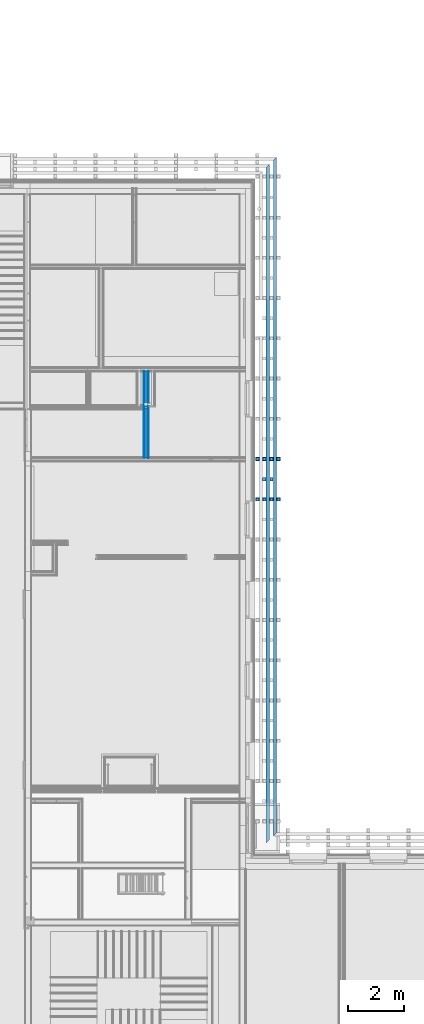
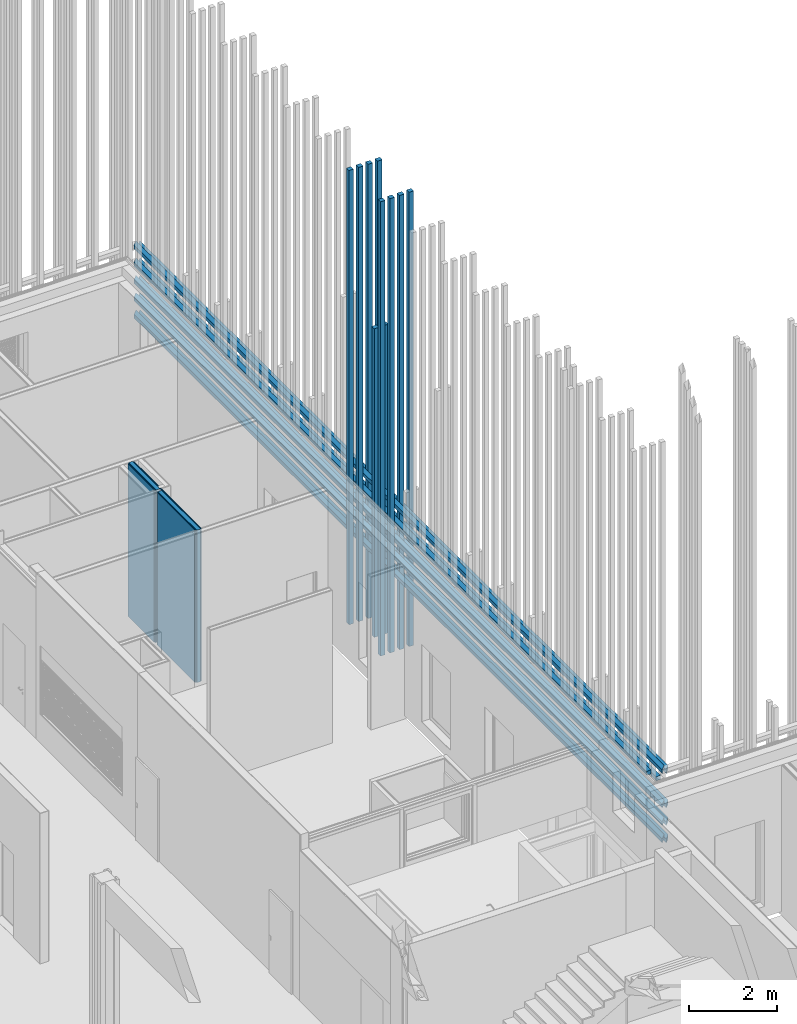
# One storey, part 191 of 260: 8 discrete accessories, 7 building element parts, 1 element without a shape of its own.
"""IFC2X3 building model written with IfcOpenShell, lengths in millimetres."""

from ifc_helpers import new_model, entity, si_unit, converted_unit, derived_unit, money_unit, direction, frame, origin_with_axes, place, context, subcontext, project, spatial, faceted_brep, material, material_list, type_object, element, aggregate, save


model = new_model("IFC2X3")

# Units and contexts
model_context = context("Model", 3, precision=0.01, world=origin_with_axes(), true_north=direction((0.0, 1.0)))
body_context = subcontext(model_context, "Body", "Model", "MODEL_VIEW")
ifc_project = project(units=[si_unit("LENGTHUNIT", "METRE", prefix="MILLI"), si_unit("AREAUNIT", "SQUARE_METRE"), si_unit("VOLUMEUNIT", "CUBIC_METRE"), converted_unit("PLANEANGLEUNIT", "DEGREE", entity("IfcPlaneAngleMeasure", 0.0174532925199), si_unit("PLANEANGLEUNIT", "RADIAN"), dimensions=[0, 0, 0, 0, 0, 0, 0]), money_unit("EUR"), converted_unit("TIMEUNIT", "Year", entity("IfcTimeMeasure", 31556926.0), si_unit("TIMEUNIT", "SECOND"), dimensions=[0, 0, 1, 0, 0, 0, 0]), si_unit("MASSUNIT", "GRAM", prefix="KILO"), si_unit("THERMODYNAMICTEMPERATUREUNIT", "DEGREE_CELSIUS"), si_unit("LUMINOUSINTENSITYUNIT", "LUMEN"), si_unit("ENERGYUNIT", "JOULE", prefix="MEGA"), derived_unit("THERMALCONDUCTANCEUNIT", [(si_unit("POWERUNIT", "WATT"), 1), (si_unit("LENGTHUNIT", "METRE"), -1), (si_unit("THERMODYNAMICTEMPERATUREUNIT", "KELVIN"), -1)]), derived_unit("SPECIFICHEATCAPACITYUNIT", [(si_unit("ENERGYUNIT", "JOULE"), 1), (si_unit("MASSUNIT", "GRAM", prefix="KILO"), -1), (si_unit("THERMODYNAMICTEMPERATUREUNIT", "KELVIN"), -1)]), derived_unit("MASSDENSITYUNIT", [(si_unit("MASSUNIT", "GRAM", prefix="KILO"), 1), (si_unit("VOLUMEUNIT", "CUBIC_METRE"), -1)])], contexts=[model_context])

# Site, building, storey
site_placement = place(None, origin_with_axes())
site = spatial("IfcSite", under=ifc_project, at=site_placement, Name="Kolde pst 67a", CompositionType="ELEMENT")
building_placement = place(site_placement, origin_with_axes())
building = spatial("IfcBuilding", under=site, at=building_placement, Name="Riigigümnaasium", CompositionType="ELEMENT")
storey_placement = place(building_placement, origin_with_axes())
storey = spatial("IfcBuildingStorey", under=building, at=storey_placement, Name="1. korrus", CompositionType="ELEMENT", Elevation=0.0)

# Discrete accessories
ifc_material_1 = material(Name="_VÄLISVIIMISTLUS - sõrmjätkatud puitprussid 120x115mm, liitekohad vähemärgatavad, Platowood sõrmjätkatud kuusk või samaväärne; eeltöödeldud tuletõkkevõõbaga, tuletundlikkus B-s1, d0, Woodsafe Exterior WFX™ või samaväärne; kinnitused vastavalt EK osale")
ifc_material_list_1 = material_list([ifc_material_1, ifc_material_1, ifc_material_1, ifc_material_1])
discrete_accessory_type_1 = type_object("IfcDiscreteAccessoryType", Name="120 4-ne vertikaalne 870 x 115")
for number, where, z_axis, x_axis in (
    (1, (60791.9943499, 50807.4998416, 280.0), (0.0, 0.0, 1.0), (-0.999999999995, -3.13999128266e-06, 0.0)),
    (2, (60791.9943499, 49377.4998416, 280.0), (0.0, 0.0, 1.0), (-0.999999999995, -3.13999128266e-06, 0.0)),
):
    element("IfcDiscreteAccessory", number, at=place(storey_placement, frame(where, z_axis=z_axis, x_axis=x_axis)), inside=storey, type_object=discrete_accessory_type_1, material=ifc_material_list_1, Name="Päikesevarjestus", context=body_context, shape_type="Brep", body=[
        faceted_brep([(-133.0, -70.0, 0.0), (-13.0, -70.0, 0.0), (-13.0, -70.0, 12600.0), (-133.0, -70.0, 12600.0), (-133.0, 45.0, 0.0), (-13.0, 45.0, 0.0), (-13.0, 45.0, 12600.0), (-133.0, 45.0, 12600.0)], [[[0, 1, 2, 3]], [[0, 4, 5, 1]], [[1, 5, 6, 2]], [[3, 2, 6, 7]], [[4, 0, 3, 7]], [[5, 4, 7, 6]]]),
        faceted_brep([(-383.0, -70.0, 0.0), (-263.0, -70.0, 0.0), (-263.0, -70.0, 12600.0), (-383.0, -70.0, 12600.0), (-383.0, 45.0, 0.0), (-263.0, 45.0, 0.0), (-263.0, 45.0, 12600.0), (-383.0, 45.0, 12600.0)], [[[0, 1, 2, 3]], [[0, 4, 5, 1]], [[1, 5, 6, 2]], [[3, 2, 6, 7]], [[4, 0, 3, 7]], [[5, 4, 7, 6]]]),
        faceted_brep([(-633.0, -70.0, 0.0), (-513.0, -70.0, 0.0), (-513.0, -70.0, 12600.0), (-633.0, -70.0, 12600.0), (-633.0, 45.0, 0.0), (-513.0, 45.0, 0.0), (-513.0, 45.0, 12600.0), (-633.0, 45.0, 12600.0)], [[[0, 1, 2, 3]], [[0, 4, 5, 1]], [[1, 5, 6, 2]], [[3, 2, 6, 7]], [[4, 0, 3, 7]], [[5, 4, 7, 6]]]),
        faceted_brep([(-883.0, -70.0, 0.0), (-763.0, -70.0, 0.0), (-763.0, -70.0, 12600.0), (-883.0, -70.0, 12600.0), (-883.0, 45.0, 0.0), (-763.0, 45.0, 0.0), (-763.0, 45.0, 12600.0), (-883.0, 45.0, 12600.0)], [[[0, 1, 2, 3]], [[0, 4, 5, 1]], [[1, 5, 6, 2]], [[3, 2, 6, 7]], [[4, 0, 3, 7]], [[5, 4, 7, 6]]]),
    ])
ifc_material_list_2 = material_list([ifc_material_1, ifc_material_1])
discrete_accessory_type_2 = type_object("IfcDiscreteAccessoryType", Name="1+paiksekaitse 4 tk nihkes 2 370 x 355")
for number, where, z_axis, x_axis in (
    (3, (60804.9940103, 36804.9718852, 2580.00014213), (0.0, 0.0, 1.0), (1.0, 1.65283527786e-08, 0.0)),
    (4, (60804.9940103, 36804.9718852, 3060.00014213), (0.0, 0.0, 1.0), (1.0, 1.65283527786e-08, 0.0)),
):
    element("IfcDiscreteAccessory", number, at=place(storey_placement, frame(where, z_axis=z_axis, x_axis=x_axis)), inside=storey, type_object=discrete_accessory_type_2, material=ifc_material_list_2, Name="Päikesevarjestus", context=body_context, shape_type="Brep", body=[
        faceted_brep([(375.0, 24375.0285677, 347.001360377), (375.0, 374.999993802, 347.001360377), (495.0, 494.999991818, 357.5), (495.0, 24495.0285697, 357.5), (375.0, 24375.0285677, 242.5), (375.0, 374.999993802, 242.5), (495.0, 494.999991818, 242.5), (495.0, 24495.0285697, 242.5)], [[[0, 1, 2, 3]], [[4, 5, 1, 0]], [[5, 6, 2, 1]], [[3, 2, 6, 7]], [[4, 0, 3, 7]], [[7, 6, 5, 4]]]),
        faceted_brep([(625.0, 24625.0285717, 107.001360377), (625.0, 624.99998967, 107.001360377), (745.0, 744.999987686, 117.5), (745.0, 24745.0285737, 117.5), (625.0, 24625.0285717, 2.5), (625.0, 624.99998967, 2.5), (745.0, 744.999987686, 2.5), (745.0, 24745.0285737, 2.5)], [[[0, 1, 2, 3]], [[4, 5, 1, 0]], [[5, 6, 2, 1]], [[3, 2, 6, 7]], [[4, 0, 3, 7]], [[7, 6, 5, 4]]]),
    ])
discrete_accessory_1_placement = place(storey_placement, frame((60804.9939923, 37892.5025923, 3540.00014213), z_axis=(0.0, 0.0, 1.0), x_axis=(1.0, 1.65283528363e-08, 0.0)))
element("IfcDiscreteAccessory", 5, at=discrete_accessory_1_placement, inside=storey, type_object=discrete_accessory_type_2, material=ifc_material_list_2, Name="Päikesevarjestus", context=body_context, shape_type="Brep", body=[
    faceted_brep([(375.0, 23287.4978606, 347.001360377), (375.0, 0.0, 347.001360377), (495.0, 0.0, 357.5), (495.0, 23407.4978626, 357.5), (375.0, 23287.4978606, 242.5), (375.0, 0.0, 242.5), (495.0, 0.0, 242.5), (495.0, 23407.4978626, 242.5)], [[[0, 1, 2, 3]], [[4, 5, 1, 0]], [[5, 6, 2, 1]], [[3, 2, 6, 7]], [[4, 0, 3, 7]], [[7, 6, 5, 4]]]),
    faceted_brep([(625.0, 23537.4978647, 107.001360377), (625.0, 0.0, 107.001360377), (745.0, 0.0, 117.5), (745.0, 23657.4978666, 117.5), (625.0, 23537.4978647, 2.5), (625.0, 0.0, 2.5), (745.0, 0.0, 2.5), (745.0, 23657.4978666, 2.5)], [[[0, 1, 2, 3]], [[4, 5, 1, 0]], [[5, 6, 2, 1]], [[3, 2, 6, 7]], [[4, 0, 3, 7]], [[7, 6, 5, 4]]]),
])
for number, where, z_axis, x_axis in (
    (6, (60804.9940103, 36804.9718852, 4020.00014213), (0.0, 0.0, 1.0), (1.0, 1.65283524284e-08, 0.0)),
    (7, (60804.9940103, 36804.9718852, 2100.00014213), (0.0, 0.0, 1.0), (1.0, 1.65283527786e-08, 0.0)),
):
    element("IfcDiscreteAccessory", number, at=place(storey_placement, frame(where, z_axis=z_axis, x_axis=x_axis)), inside=storey, type_object=discrete_accessory_type_2, material=ifc_material_list_2, Name="Päikesevarjestus", context=body_context, shape_type="Brep", body=[
        faceted_brep([(375.0, 24375.0285677, 347.001360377), (375.0, 374.999993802, 347.001360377), (495.0, 494.999991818, 357.5), (495.0, 24495.0285697, 357.5), (375.0, 24375.0285677, 242.5), (375.0, 374.999993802, 242.5), (495.0, 494.999991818, 242.5), (495.0, 24495.0285697, 242.5)], [[[0, 1, 2, 3]], [[4, 5, 1, 0]], [[5, 6, 2, 1]], [[3, 2, 6, 7]], [[4, 0, 3, 7]], [[7, 6, 5, 4]]]),
        faceted_brep([(625.0, 24625.0285717, 107.001360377), (625.0, 624.99998967, 107.001360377), (745.0, 744.999987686, 117.5), (745.0, 24745.0285737, 117.5), (625.0, 24625.0285717, 2.5), (625.0, 624.99998967, 2.5), (745.0, 744.999987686, 2.5), (745.0, 24745.0285737, 2.5)], [[[0, 1, 2, 3]], [[4, 5, 1, 0]], [[5, 6, 2, 1]], [[3, 2, 6, 7]], [[4, 0, 3, 7]], [[7, 6, 5, 4]]]),
    ])
discrete_accessory_type_3 = type_object("IfcDiscreteAccessoryType", Name="1+paiksekaitse 3 370 x 115")
discrete_accessory_2_placement = place(storey_placement, frame((61771.9937454, 50165.0013897, 280.0), z_axis=(0.0, 0.0, 1.0), x_axis=(-1.0, 0.0, 0.0)))
element("IfcDiscreteAccessory", 8, at=discrete_accessory_2_placement, inside=storey, type_object=discrete_accessory_type_3, material=ifc_material_list_2, Name="Päikesevarjestus", context=body_context, shape_type="Brep", body=[
    faceted_brep([(467.0, 117.5, 0.0), (347.0, 117.5, 0.0), (347.0, 117.5, 8560.0), (467.0, 117.5, 8560.0), (467.0, 2.5, 0.0), (347.0, 2.5, 0.0), (347.0, 2.5, 8560.0), (467.0, 2.5, 8560.0)], [[[0, 1, 2, 3]], [[0, 4, 5, 1]], [[1, 5, 6, 2]], [[3, 2, 6, 7]], [[4, 0, 3, 7]], [[5, 4, 7, 6]]]),
    faceted_brep([(717.0, 117.5, 0.0), (597.0, 117.5, 0.0), (597.0, 117.5, 8560.0), (717.0, 117.5, 8560.0), (717.0, 2.5, 0.0), (597.0, 2.5, 0.0), (597.0, 2.5, 8560.0), (717.0, 2.5, 8560.0)], [[[0, 1, 2, 3]], [[0, 4, 5, 1]], [[1, 5, 6, 2]], [[3, 2, 6, 7]], [[4, 0, 3, 7]], [[5, 4, 7, 6]]]),
])

# Wall, building element parts
wall_type = type_object("IfcWallType", Name="SS-PK-10/9_vill100+2värv 170", PredefinedType="NOTDEFINED")
wall_placement = place(storey_placement, frame((56829.994111, 50890.0003787, 0.0), z_axis=(0.0, 0.0, 1.0), x_axis=(0.0, 1.0, 0.0)))
wall = element("IfcWall", 9, at=wall_placement, inside=storey, type_object=wall_type, Name="Sisesein")
ifc_material_2 = material(Name="_VIIMISTLUSKIHT - viimistlus vastavalt SA osale")
building_element_part_1_placement = place(wall_placement, origin_with_axes())
building_element_part_1 = element("IfcBuildingElementPart", 10, at=building_element_part_1_placement, material=ifc_material_2, Name="_VIIMISTLUSKIHT - viimistlus vastavalt SA osale", context=body_context, shape_type="Brep", body=[
    faceted_brep([(1689.99980569, -5.0, 4230.00000998), (1689.99980569, 0.0, 4230.00000998), (0.0, 0.0, 4230.00000998), (0.0, -5.0, 4230.00000998), (1689.99980569, -5.0, 0.0), (1689.99980569, 0.0, 0.0), (0.0, 0.0, 0.0), (0.0, -5.0, 0.0)], [[[0, 1, 2, 3]], [[1, 0, 4, 5]], [[1, 5, 6, 2]], [[7, 3, 2, 6]], [[4, 0, 3, 7]], [[5, 4, 7, 6]]]),
    faceted_brep([(3028.49967966, 0.0, 4230.00000998), (1844.99980569, 0.0, 4230.00000998), (1844.99980569, -5.0, 4230.00000998), (3028.49967966, -5.0, 4230.00000998), (3028.49967966, 0.0, 0.0), (1844.99980569, 0.0, 0.0), (1844.99980569, -5.0, 0.0), (3028.49967966, -5.0, 0.0)], [[[0, 1, 2, 3]], [[4, 5, 1, 0]], [[2, 1, 5, 6]], [[3, 2, 6, 7]], [[3, 7, 4, 0]], [[7, 6, 5, 4]]]),
])
ifc_material_3 = material(Name="_PLAATMATERJAL - tuletõkkekipsplaat, Knauf Red GKF või samaväärne")
building_element_part_2_placement = place(wall_placement, origin_with_axes())
building_element_part_2 = element("IfcBuildingElementPart", 11, at=building_element_part_2_placement, material=ifc_material_3, Name="_PLAATMATERJAL - tuletõkkekipsplaat, Knauf Red GKF või samaväärne", context=body_context, shape_type="Brep", body=[
    faceted_brep([(1729.99980569, -20.0, 4230.00000998), (1729.99980569, -5.0, 4230.00000998), (-5.0, -5.0, 4230.00000998), (-5.0, -20.0, 4230.00000998), (1729.99980569, -20.0, 0.0), (1729.99980569, -5.0, 0.0), (-5.0, -5.0, 0.0), (-5.0, -20.0, 0.0)], [[[0, 1, 2, 3]], [[1, 0, 4, 5]], [[1, 5, 6, 2]], [[7, 3, 2, 6]], [[4, 0, 3, 7]], [[5, 4, 7, 6]]]),
    faceted_brep([(3033.49967966, -5.0, 4230.00000998), (1804.99980569, -5.0, 4230.00000998), (1804.99980569, -20.0, 4230.00000998), (3033.49967966, -20.0, 4230.00000998), (3033.49967966, -5.0, 0.0), (1804.99980569, -5.0, 0.0), (1804.99980569, -20.0, 0.0), (3033.49967966, -20.0, 0.0)], [[[0, 1, 2, 3]], [[4, 5, 1, 0]], [[2, 1, 5, 6]], [[3, 2, 6, 7]], [[3, 7, 4, 0]], [[7, 6, 5, 4]]]),
])
ifc_material_4 = material(Name="_PLAATMATERJAL - OSB3 plaat")
building_element_part_3_placement = place(wall_placement, origin_with_axes())
building_element_part_3 = element("IfcBuildingElementPart", 12, at=building_element_part_3_placement, material=ifc_material_4, Name="_PLAATMATERJAL - OSB3 plaat", context=body_context, shape_type="Brep", body=[
    faceted_brep([(1729.99980569, -35.0, 4230.00000998), (1729.99980569, -20.0, 4230.00000998), (-20.0, -20.0, 4230.00000998), (-20.0, -35.0, 4230.00000998), (1729.99980569, -35.0, 0.0), (1729.99980569, -20.0, 0.0), (-20.0, -20.0, 0.0), (-20.0, -35.0, 0.0)], [[[0, 1, 2, 3]], [[1, 0, 4, 5]], [[1, 5, 6, 2]], [[7, 3, 2, 6]], [[4, 0, 3, 7]], [[5, 4, 7, 6]]]),
    faceted_brep([(3048.49967966, -20.0, 4230.00000998), (1804.99980569, -20.0, 4230.00000998), (1804.99980569, -35.0, 4230.00000998), (3048.49967966, -35.0, 4230.00000998), (3048.49967966, -20.0, 0.0), (1804.99980569, -20.0, 0.0), (1804.99980569, -35.0, 0.0), (3048.49967966, -35.0, 0.0)], [[[0, 1, 2, 3]], [[4, 5, 1, 0]], [[2, 1, 5, 6]], [[3, 2, 6, 7]], [[3, 7, 4, 0]], [[7, 6, 5, 4]]]),
])
ifc_material_5 = material(Name="_KARKASS - puitpruss 100x50mm vertikaalne, samm 600mm, vahel mineraalvill, helineeldetegur αw = 1.0, ISOVER ACOUSTIC 100mm või samaväärne")
building_element_part_4_placement = place(wall_placement, origin_with_axes())
building_element_part_4 = element("IfcBuildingElementPart", 13, at=building_element_part_4_placement, material=ifc_material_5, Name="_KARKASS - puitpruss 100x50mm vertikaalne, samm 600mm, vahel mineraalvill, helineeldetegur αw = 1.0, ISOVER ACOUSTIC 100mm või samaväärne", context=body_context, shape_type="Brep", body=[
    faceted_brep([(1729.99980569, -135.0, 4230.00000998), (1729.99980569, -35.0, 4230.00000998), (-35.0, -35.0, 4230.00000998), (-35.0, -135.0, 4230.00000998), (1729.99980569, -135.0, 0.0), (1729.99980569, -35.0, 0.0), (-35.0, -35.0, 0.0), (-35.0, -135.0, 0.0)], [[[0, 1, 2, 3]], [[1, 0, 4, 5]], [[1, 5, 6, 2]], [[7, 3, 2, 6]], [[4, 0, 3, 7]], [[5, 4, 7, 6]]]),
    faceted_brep([(3063.49967966, -35.0, 4230.00000998), (1804.99980569, -35.0, 4230.00000998), (1804.99980569, -135.0, 4230.00000998), (3063.49967966, -135.0, 4230.00000998), (3063.49967966, -35.0, 0.0), (1804.99980569, -35.0, 0.0), (1804.99980569, -135.0, 0.0), (3063.49967966, -135.0, 0.0)], [[[0, 1, 2, 3]], [[4, 5, 1, 0]], [[2, 1, 5, 6]], [[3, 2, 6, 7]], [[3, 7, 4, 0]], [[7, 6, 5, 4]]]),
])
building_element_part_5_placement = place(wall_placement, origin_with_axes())
building_element_part_5 = element("IfcBuildingElementPart", 14, at=building_element_part_5_placement, material=ifc_material_4, Name="_PLAATMATERJAL - OSB3 plaat", context=body_context, shape_type="Brep", body=[
    faceted_brep([(-35.0, -135.0, 4230.0), (-35.0, -150.0, 4230.0), (1826.25862245, -150.0, 4230.00000998), (1826.25862245, -135.0, 4230.00000998), (-35.0000000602, -150.0, 0.0), (-35.0000000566, -135.0, 0.0), (1826.25862245, -150.0, 0.0), (1826.25862245, -135.0, 0.0)], [[[0, 1, 2, 3]], [[4, 1, 0, 5]], [[1, 4, 6, 2]], [[3, 2, 6, 7]], [[5, 0, 3, 7]], [[4, 5, 7, 6]]]),
    faceted_brep([(3048.49967966, -135.0, 4230.00000998), (1926.25862245, -135.0, 4230.00000998), (1926.25862245, -150.0, 4230.00000998), (3048.49967966, -150.0, 4230.00000998), (3048.49967966, -135.0, 0.0), (1926.25862245, -135.0, 0.0), (1926.25862245, -150.0, 0.0), (3048.49967966, -150.0, 0.0)], [[[0, 1, 2, 3]], [[4, 5, 1, 0]], [[2, 1, 5, 6]], [[3, 2, 6, 7]], [[3, 7, 4, 0]], [[7, 6, 5, 4]]]),
])
building_element_part_6_placement = place(wall_placement, origin_with_axes())
building_element_part_6 = element("IfcBuildingElementPart", 15, at=building_element_part_6_placement, material=ifc_material_3, Name="_PLAATMATERJAL - tuletõkkekipsplaat, Knauf Red GKF või samaväärne", context=body_context, shape_type="Brep", body=[
    faceted_brep([(-20.0, -150.0, 4230.00000998), (-20.0, -165.0, 4230.00000994), (1826.25862245, -165.0, 4230.00000998), (1826.25862245, -150.0, 4230.00000998), (-20.0000000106, -165.0, 0.0), (-20.00000001, -150.0, 0.0), (1826.25862245, -165.0, 0.0), (1826.25862245, -150.0, 0.0)], [[[0, 1, 2, 3]], [[4, 1, 0, 5]], [[1, 4, 6, 2]], [[3, 2, 6, 7]], [[5, 0, 3, 7]], [[4, 5, 7, 6]]]),
    faceted_brep([(3033.49967966, -150.0, 4230.00000998), (1926.25862245, -150.0, 4230.00000998), (1926.25862245, -165.0, 4230.00000998), (3033.49967966, -165.0, 4230.00000998), (3033.49967966, -150.0, 0.0), (1926.25862245, -150.0, 0.0), (1926.25862245, -165.0, 0.0), (3033.49967966, -165.0, 0.0)], [[[0, 1, 2, 3]], [[4, 5, 1, 0]], [[2, 1, 5, 6]], [[3, 2, 6, 7]], [[3, 7, 4, 0]], [[7, 6, 5, 4]]]),
])
building_element_part_7_placement = place(wall_placement, origin_with_axes())
building_element_part_7 = element("IfcBuildingElementPart", 16, at=building_element_part_7_placement, material=ifc_material_2, Name="_VIIMISTLUSKIHT - viimistlus vastavalt SA osale", context=body_context, shape_type="Brep", body=[
    faceted_brep([(-5.0, -165.0, 4230.00000998), (-5.0, -170.0, 4230.00000997), (1801.25862245, -170.0, 4230.00000998), (1801.25862245, -165.0, 4230.00000998), (-4.99999995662, -170.0, 0.0), (-4.99999995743, -165.0, 0.0), (1801.25862245, -170.0, 0.0), (1801.25862245, -165.0, 0.0)], [[[0, 1, 2, 3]], [[4, 1, 0, 5]], [[1, 4, 6, 2]], [[3, 2, 6, 7]], [[5, 0, 3, 7]], [[4, 5, 7, 6]]]),
    faceted_brep([(3028.49967966, -165.0, 4230.00000998), (1926.25862245, -165.0, 4230.00000998), (1926.25862245, -170.0, 4230.00000998), (3028.49967966, -170.0, 4230.00000998), (3028.49967966, -165.0, 0.0), (1926.25862245, -165.0, 0.0), (1926.25862245, -170.0, 0.0), (3028.49967966, -170.0, 0.0)], [[[0, 1, 2, 3]], [[4, 5, 1, 0]], [[2, 1, 5, 6]], [[3, 2, 6, 7]], [[3, 7, 4, 0]], [[7, 6, 5, 4]]]),
])
aggregate(wall, [building_element_part_1, building_element_part_2, building_element_part_3, building_element_part_4, building_element_part_5, building_element_part_6, building_element_part_7])

save(model, "model.ifc")
